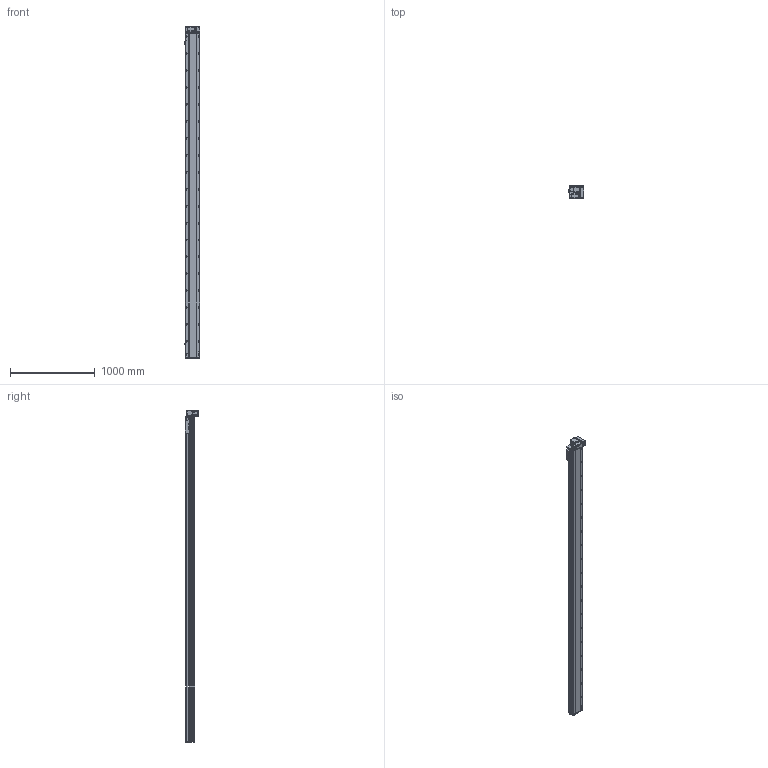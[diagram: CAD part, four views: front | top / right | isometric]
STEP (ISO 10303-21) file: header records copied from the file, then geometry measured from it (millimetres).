
FILE_DESCRIPTION (( 'STEP AP214' ), '1' );
FILE_NAME ('RTB17S-XX-3550-RM-M40-C4.STEP', '2025-12-11T08:39:50', ( '' ), ( '' ), 'SwSTEP 2.0', 'SolidWorks 2018', '' );
FILE_SCHEMA (( 'AUTOMOTIVE_DESIGN' ));
Length unit declared in the file: millimetre
Products named in the file (14): RTB17S-L-007奻裔^RTB17S-XX-XX-RM-M40-C4; RTB17S-L-004佪裝蹟譫蟀諉釱^RTB17S-XX-XX-RM-M40-C4; RTB17S-L-001耜醱啣^RTB17S-XX-XX-RM-M40-C4; OMRON EE-SX672 传感器^RTB17S-XX-XX-RM-M40-C4; RTB14-L-017P^RTB17S-RM-々湍釱蚾饜-400W_RTB17S-XX-XX-RM-M40-C4; RTB17S-XX-3550-RM-M40-C4; RTB14-L-018P^RTB17S-RM-々湍釱蚾饜-400W_RTB17S-XX-XX-RM-M40-C4; RTB17-R-011菁釱^RTB17S-XX-XX-RM-M40-C4; RTB17S-RM-々湍釱蚾饜-400W^RTB17S-XX-XX-RM-M40-C4; 400W侜督萇儂^RTB17S-XX-XX-RM-M40-C4; RTB14-L-008-M20--萇儂啣^RTB17S-RM-々湍釱蚾饜-400W_RTB17S-XX-XX-RM-M40-C4; RTB14-L-005P--轴承塑胶压盖^RTB17S-RM-皮带座装配-400W_RTB17S-XX-XX-RM-M40-C4; RTB17S-L-014-T20--々湍釱^RTB17S-RM-々湍釱蚾饜-400W_RTB17S-XX-XX-RM-M40-C4; RTH13-BL-012覜茼え俋离^RTB17S-XX-XX-RM-M40-C4
Assembly tree (16 placements, depth 3):
  RTB17S-XX-3550-RM-M40-C4
    RTB17-R-011菁釱^RTB17S-XX-XX-RM-M40-C4
    RTB17S-L-007奻裔^RTB17S-XX-XX-RM-M40-C4
    OMRON EE-SX672 传感器^RTB17S-XX-XX-RM-M40-C4  x3
    RTB17S-L-001耜醱啣^RTB17S-XX-XX-RM-M40-C4
    400W侜督萇儂^RTB17S-XX-XX-RM-M40-C4
    RTB17S-L-004佪裝蹟譫蟀諉釱^RTB17S-XX-XX-RM-M40-C4
    RTH13-BL-012覜茼え俋离^RTB17S-XX-XX-RM-M40-C4
    RTB17S-RM-々湍釱蚾饜-400W^RTB17S-XX-XX-RM-M40-C4
      RTB17S-L-014-T20--々湍釱^RTB17S-RM-々湍釱蚾饜-400W_RTB17S-XX-XX-RM-M40-C4
      RTB14-L-005P--轴承塑胶压盖^RTB17S-RM-皮带座装配-400W_RTB17S-XX-XX-RM-M40-C4
      RTB14-L-008-M20--萇儂啣^RTB17S-RM-々湍釱蚾饜-400W_RTB17S-XX-XX-RM-M40-C4
      RTB14-L-017P^RTB17S-RM-々湍釱蚾饜-400W_RTB17S-XX-XX-RM-M40-C4  x2
      RTB14-L-018P^RTB17S-RM-々湍釱蚾饜-400W_RTB17S-XX-XX-RM-M40-C4
Bounding box: 183.5 x 156.5 x 3922.5 mm (x, y, z)
Volume: 33169372.2 mm3; surface area: 3765757.9 mm2
Topology: 15 solids, 15 shells, 2413 faces, 6789 edges, 4437 vertices
Faces by surface type: plane 1094, cylinder 871, bspline 301, cone 139, torus 8
Entity records: 72617 total; most frequent: CARTESIAN_POINT 20794, ORIENTED_EDGE 10422, DIRECTION 9566, EDGE_CURVE 5211, VERTEX_POINT 3425, AXIS2_PLACEMENT_3D 3355, LINE 2856, VECTOR 2856
